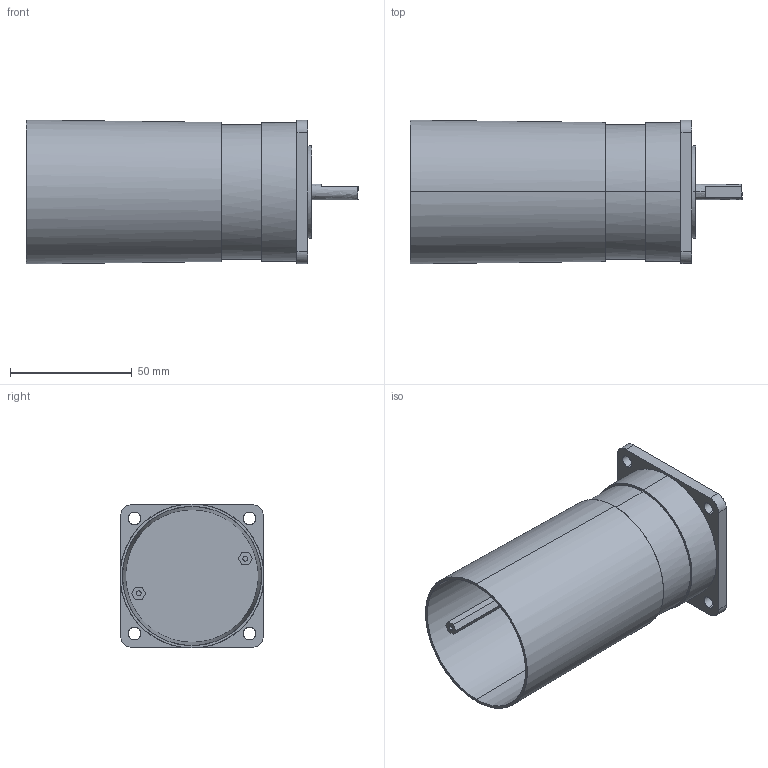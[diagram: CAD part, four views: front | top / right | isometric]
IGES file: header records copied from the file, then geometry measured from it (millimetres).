
Start section: Comment
Global section: file name: MAC050-A3.igs; native system:  By UGS Corp.; preprocessor: XPlus GENERIC/IGES 3.0; author: Author; organization: Title; date: 20150611.113811; units: millimetre
Bounding box: 136.07 x 58.83 x 59 mm (x, y, z)
Surface area: 44829.7 mm2 (no closed solid volume)
Topology: 0 solids, 0 shells, 67 faces, 312 edges, 312 vertices
Faces by surface type: bspline 67
